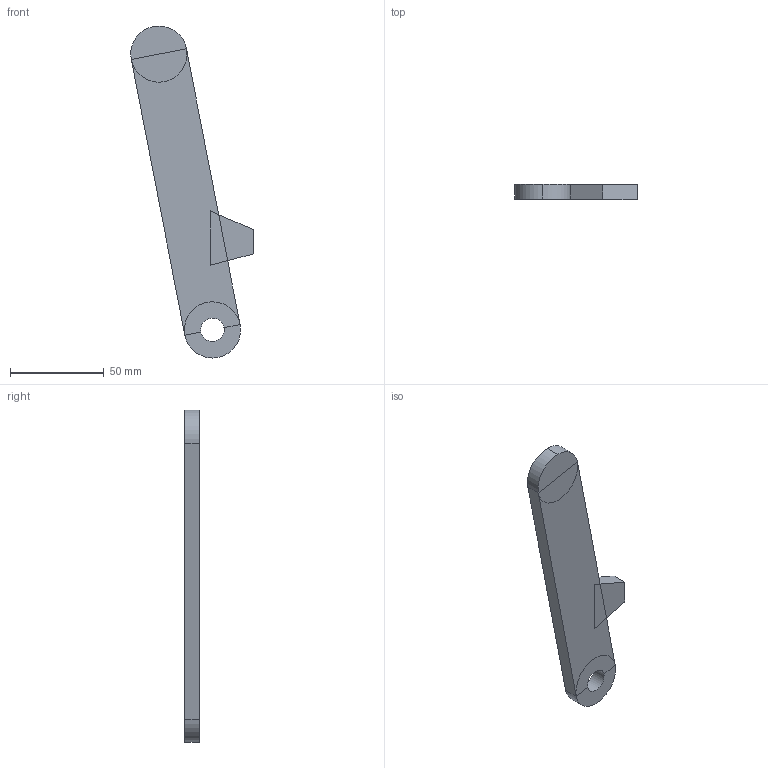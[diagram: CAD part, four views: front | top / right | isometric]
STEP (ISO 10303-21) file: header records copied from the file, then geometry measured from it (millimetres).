
FILE_DESCRIPTION(('Open CASCADE Model'),'2;1');
FILE_NAME('Open CASCADE Shape Model','2026-10-20T13:19:35',('Author'),( 'Open CASCADE'),'Open CASCADE STEP processor 7.9','Open CASCADE 7.9' ,'Unknown');
FILE_SCHEMA(('AUTOMOTIVE_DESIGN { 1 0 10303 214 1 1 1 1 }'));
Length unit declared in the file: millimetre
Products named in the file (1): Open CASCADE STEP translator 7.9 72
Bounding box: 65.38 x 8 x 177.24 mm (x, y, z)
Volume: 43044.5 mm3; surface area: 14406.8 mm2
Topology: 1 solids, 1 shells, 24 faces, 54 edges, 30 vertices
Faces by surface type: plane 20, cylinder 4
Full cylindrical faces by diameter (mm): 12.5 x1
Entity records: 1364 total; most frequent: DIRECTION 226, CARTESIAN_POINT 221, LINE 116, VECTOR 116, ORIENTED_EDGE 108, PCURVE 108, DEFINITIONAL_REPRESENTATION 108, EDGE_CURVE 54
